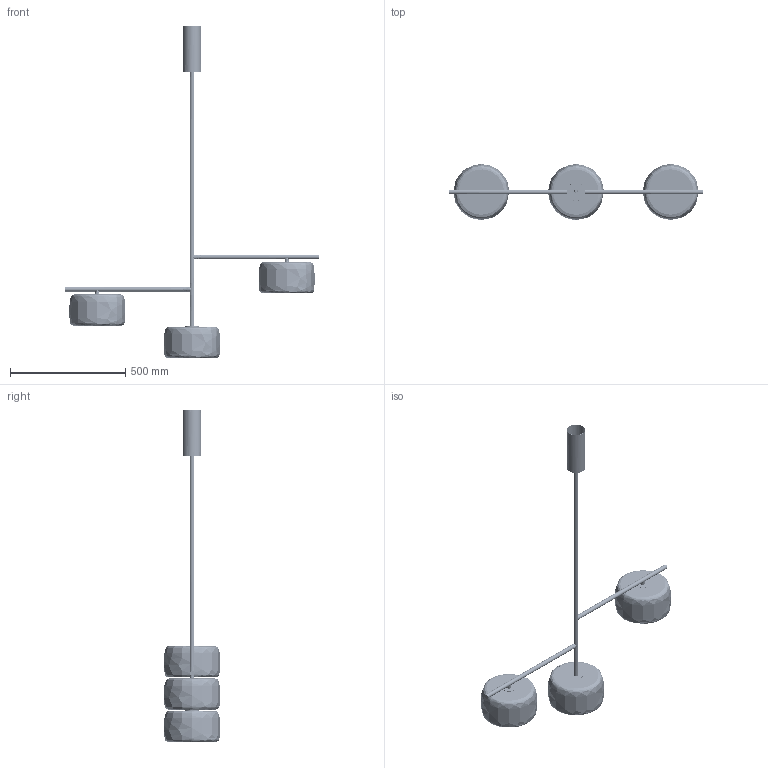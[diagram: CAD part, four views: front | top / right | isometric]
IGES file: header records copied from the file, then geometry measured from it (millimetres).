
Start section: SolidWorks IGES file using analytic representation for surfaces
Global section: file name: C:\Users\Agustin\Desktop\COMPARTIDA\Nueva Coleccion Septiembre 2026\ISES_1364\ISES_C1364_3\3D\ISES_C1364_3.IGS; native system: SolidWorks 2023; preprocessor: SolidWorks 2023; author: Agustin; date: 260903.102754; units: millimetre
Bounding box: 1100 x 242.65 x 1437.7 mm (x, y, z)
Surface area: 1789180.6 mm2 (no closed solid volume)
Topology: 0 solids, 0 shells, 2429 faces, 16961 edges, 16955 vertices
Faces by surface type: bspline 2429
